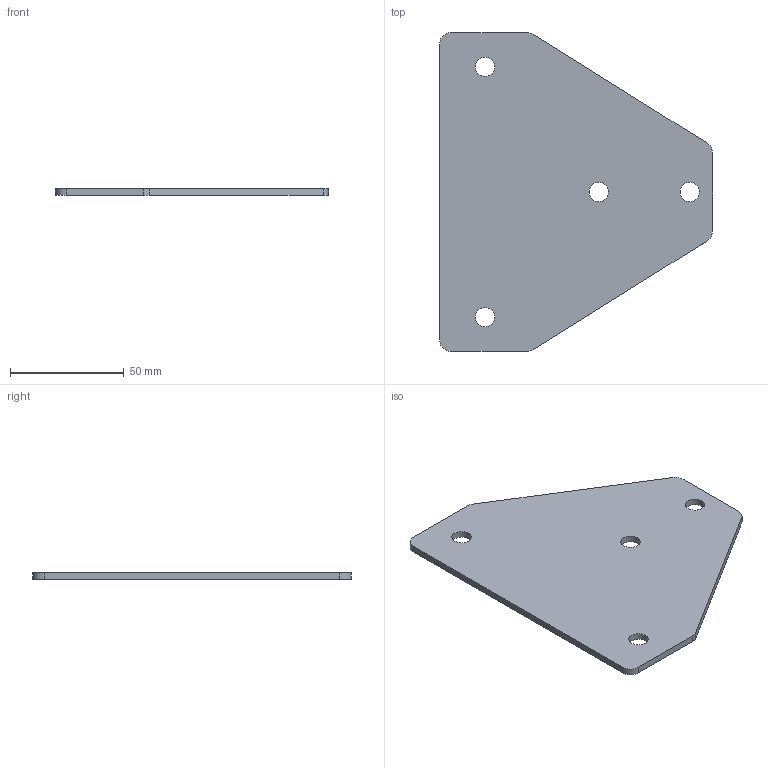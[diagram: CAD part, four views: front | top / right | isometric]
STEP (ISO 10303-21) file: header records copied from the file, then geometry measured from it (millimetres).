
FILE_DESCRIPTION(/* description */ ('CONNECTION PLATE T-CROSS FOR 40x40'),/* implementation_level */ '2;1');
FILE_NAME(/* name */ '\\carryline.intra\privat\users\mathias\Desktop\Tillfälliga filer\100-5010.stp',/* time_stamp */ '2018-11-20T11:01:19+01:00',/* author */ ('PL'),/* organization */ ('CARRYLINE'),/* preprocessor_version */ 'ST-DEVELOPER v17',/* originating_system */ 'Autodesk Inventor 2018',/* authorisation */ '');
FILE_SCHEMA (('AUTOMOTIVE_DESIGN { 1 0 10303 214 3 1 1 }'));
Length unit declared in the file: millimetre
Products named in the file (1): 100-5010
Bounding box: 120 x 140 x 3 mm (x, y, z)
Volume: 37678.5 mm3; surface area: 26769.3 mm2
Topology: 1 solids, 1 shells, 18 faces, 52 edges, 36 vertices
Faces by surface type: cylinder 10, plane 8
Full cylindrical faces by diameter (mm): 8.5 x4
Entity records: 667 total; most frequent: DIRECTION 114, CARTESIAN_POINT 107, ORIENTED_EDGE 104, EDGE_CURVE 52, AXIS2_PLACEMENT_3D 43, VERTEX_POINT 36, LINE 28, VECTOR 28
